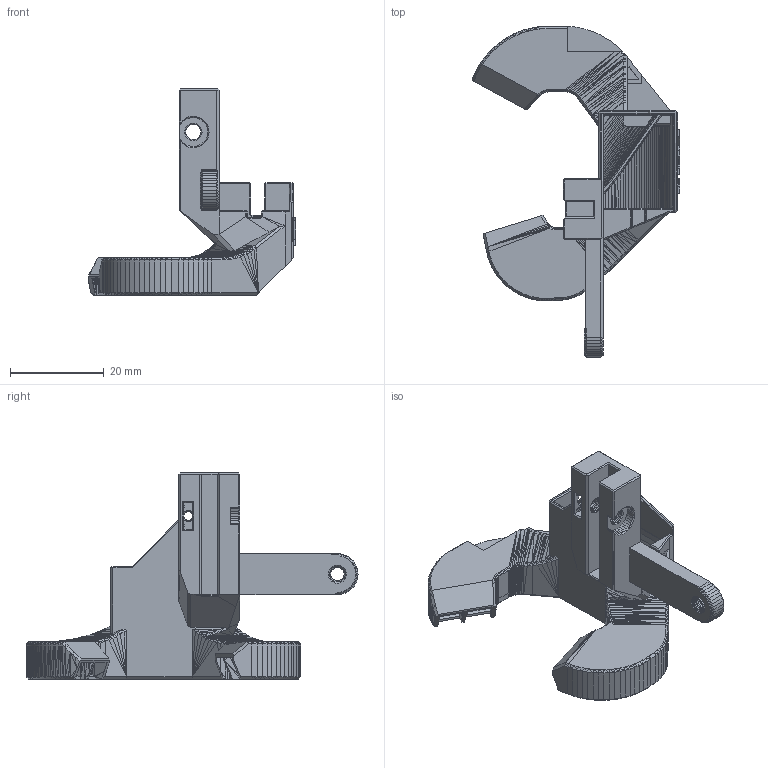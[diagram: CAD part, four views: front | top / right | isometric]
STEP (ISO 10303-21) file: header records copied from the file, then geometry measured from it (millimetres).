
FILE_DESCRIPTION(/* description */ (''),/* implementation_level */ '2;1');
FILE_NAME(/* name */ 'D:/Down/Druck/Fan_ShroudV42.step',/* time_stamp */ '2022-02-09T16:31:01+07:00',/* author */ (''),/* organization */ (''),/* preprocessor_version */ 'ST-DEVELOPER v18.1',/* originating_system */ 'Autodesk Translation Framework v10.13.0.1454',/* authorisation */ '');
FILE_SCHEMA (('AUTOMOTIVE_DESIGN { 1 0 10303 214 3 1 1 }'));
Products named in the file (1): Fan_Shroud
Bounding box: 44.37 x 70.83 x 44 mm (x, y, z)
Volume: 9203.9 mm3; surface area: 11730.7 mm2
Topology: 1 solids, 2 shells, 3295 faces, 6335 edges, 3038 vertices
Faces by surface type: plane 3292, cylinder 2, bspline 1
Entity records: 76912 total; most frequent: DIRECTION 12925, CARTESIAN_POINT 12720, ORIENTED_EDGE 12670, EDGE_CURVE 6335, LINE 6327, VECTOR 6327, EDGE_LOOP 3315, AXIS2_PLACEMENT_3D 3299
